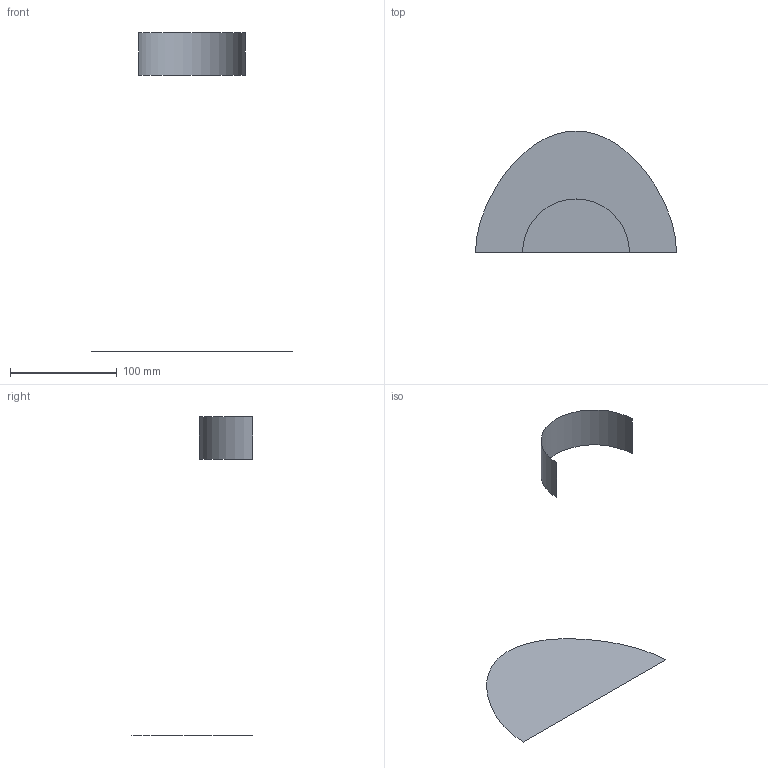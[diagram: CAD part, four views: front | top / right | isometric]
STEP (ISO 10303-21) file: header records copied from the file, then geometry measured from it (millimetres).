
FILE_DESCRIPTION(('CATIA V5 STEP Exchange'),'2;1');
FILE_NAME('C:\_Andres\UNIVERSIDAD\IQS\ASIGNATURAS\DAO\Controles\1617\c1\1original\Bonilla_Arrufat_Ej00-base_v4.stp','2017-02-06T16:27:32+00:00',('none'),('none'),'CATIA Version 5-6 Release 2014 SP1 HF18','CATIA V5 STEP AP203','none');
FILE_SCHEMA(('CONFIG_CONTROL_DESIGN'));
Length unit declared in the file: millimetre
Products named in the file (1): Bonilla_Arrufat_Ej00-base_v4
Bounding box: 188 x 114 x 298 mm (x, y, z)
Surface area: 22439.3 mm2 (no closed solid volume)
Topology: 0 solids, 2 shells, 2 faces, 16 edges, 26 vertices
Faces by surface type: cylinder 1, plane 1
Entity records: 230 total; most frequent: CARTESIAN_POINT 78, DIRECTION 16, COMPOSITE_CURVE_SEGMENT 9, TRIMMED_CURVE 9, AXIS2_PLACEMENT_3D 8, COMPOSITE_CURVE 7, ORIENTED_EDGE 7, EDGE_CURVE 7
